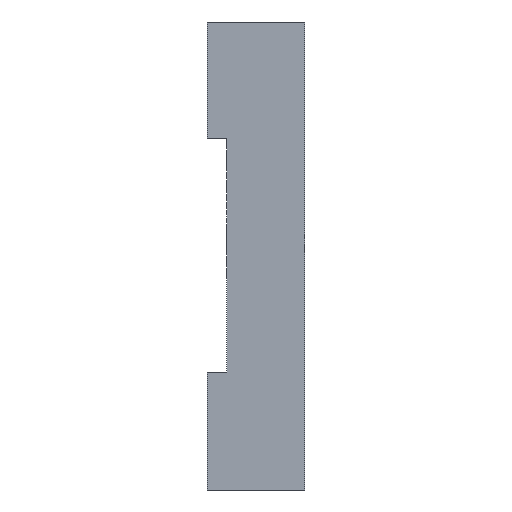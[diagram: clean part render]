
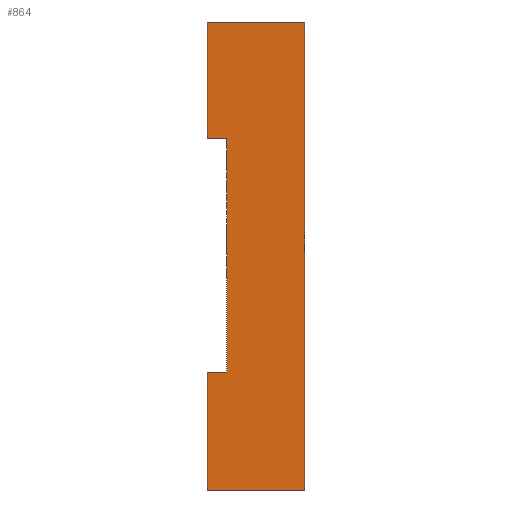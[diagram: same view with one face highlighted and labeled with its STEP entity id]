
A CAD part, left-side view. The second image highlights one B-rep face of the part: STEP entity #864.
In plain terms, the highlighted planar face has unit normal (-1, 0, 0).
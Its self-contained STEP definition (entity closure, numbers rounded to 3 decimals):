
#82 = EDGE_CURVE ( 'NONE', #195, #2377, #1007, .T. ) ;
#123 = VERTEX_POINT ( 'NONE', #1828 ) ;
#124 = VERTEX_POINT ( 'NONE', #1829 ) ;
#125 = VERTEX_POINT ( 'NONE', #1830 ) ;
#134 = VERTEX_POINT ( 'NONE', #1839 ) ;
#136 = VERTEX_POINT ( 'NONE', #1841 ) ;
#138 = VERTEX_POINT ( 'NONE', #1843 ) ;
#195 = VERTEX_POINT ( 'NONE', #1900 ) ;
#385 = ORIENTED_EDGE ( 'NONE', *, *, #1990, .F. ) ;
#473 = AXIS2_PLACEMENT_3D ( 'NONE', #1648, #1657, #1658 ) ;
#622 = CARTESIAN_POINT ( 'NONE',  ( -36., 0., -24. ) ) ;
#626 = DIRECTION ( 'NONE',  ( 0., 0., 1. ) ) ;
#641 = CARTESIAN_POINT ( 'NONE',  ( -36., 8., 24. ) ) ;
#642 = DIRECTION ( 'NONE',  ( 0., -1., 0. ) ) ;
#649 = CARTESIAN_POINT ( 'NONE',  ( -36., 10., 24. ) ) ;
#650 = DIRECTION ( 'NONE',  ( 0., 0., 1. ) ) ;
#651 = CARTESIAN_POINT ( 'NONE',  ( -36., 10., 12. ) ) ;
#652 = DIRECTION ( 'NONE',  ( 0., -1., 0. ) ) ;
#653 = CARTESIAN_POINT ( 'NONE',  ( -36., 10., -12. ) ) ;
#654 = DIRECTION ( 'NONE',  ( 0., -1., 0. ) ) ;
#655 = CARTESIAN_POINT ( 'NONE',  ( -36., 10., -24. ) ) ;
#656 = DIRECTION ( 'NONE',  ( 0., 0., 1. ) ) ;
#657 = CARTESIAN_POINT ( 'NONE',  ( -36., 8., -24. ) ) ;
#658 = DIRECTION ( 'NONE',  ( 0., -1., 0. ) ) ;
#864 = ADVANCED_FACE ( 'NONE', ( #1170 ), #1655, .F. ) ;
#924 = EDGE_LOOP ( 'NONE', ( #2298, #2087, #385, #2091, #2293, #2290, #2344, #2135 ) ) ;
#1007 = LINE ( 'NONE', #1765, #1010 ) ;
#1010 = VECTOR ( 'NONE', #1750, 1000. ) ;
#1170 = FACE_OUTER_BOUND ( 'NONE', #924, .T. ) ;
#1250 = LINE ( 'NONE', #622, #1266 ) ;
#1266 = VECTOR ( 'NONE', #626, 1000. ) ;
#1277 = LINE ( 'NONE', #641, #1279 ) ;
#1278 = LINE ( 'NONE', #649, #1281 ) ;
#1279 = VECTOR ( 'NONE', #642, 1000. ) ;
#1280 = LINE ( 'NONE', #651, #1283 ) ;
#1281 = VECTOR ( 'NONE', #650, 1000. ) ;
#1282 = LINE ( 'NONE', #653, #1285 ) ;
#1283 = VECTOR ( 'NONE', #652, 1000. ) ;
#1284 = LINE ( 'NONE', #655, #1287 ) ;
#1285 = VECTOR ( 'NONE', #654, 1000. ) ;
#1286 = LINE ( 'NONE', #657, #1289 ) ;
#1287 = VECTOR ( 'NONE', #656, 1000. ) ;
#1289 = VECTOR ( 'NONE', #658, 1000. ) ;
#1648 = CARTESIAN_POINT ( 'NONE',  ( -36., 8., -24. ) ) ;
#1655 = PLANE ( 'NONE',  #473 ) ;
#1657 = DIRECTION ( 'NONE',  ( 1., 0., 0. ) ) ;
#1658 = DIRECTION ( 'NONE',  ( 0., 0., -1. ) ) ;
#1750 = DIRECTION ( 'NONE',  ( 0., 0., 1. ) ) ;
#1765 = CARTESIAN_POINT ( 'NONE',  ( -36., 8., -24. ) ) ;
#1828 = CARTESIAN_POINT ( 'NONE',  ( -36., 10., 24. ) ) ;
#1829 = CARTESIAN_POINT ( 'NONE',  ( -36., 0., 24. ) ) ;
#1830 = CARTESIAN_POINT ( 'NONE',  ( -36., 0., -24. ) ) ;
#1839 = CARTESIAN_POINT ( 'NONE',  ( -36., 10., -12. ) ) ;
#1841 = CARTESIAN_POINT ( 'NONE',  ( -36., 10., 12. ) ) ;
#1843 = CARTESIAN_POINT ( 'NONE',  ( -36., 10., -24. ) ) ;
#1900 = CARTESIAN_POINT ( 'NONE',  ( -36., 8., -12. ) ) ;
#1980 = EDGE_CURVE ( 'NONE', #125, #124, #1250, .T. ) ;
#1989 = EDGE_CURVE ( 'NONE', #123, #124, #1277, .T. ) ;
#1990 = EDGE_CURVE ( 'NONE', #136, #123, #1278, .T. ) ;
#1991 = EDGE_CURVE ( 'NONE', #136, #2377, #1280, .T. ) ;
#1992 = EDGE_CURVE ( 'NONE', #134, #195, #1282, .T. ) ;
#1993 = EDGE_CURVE ( 'NONE', #138, #134, #1284, .T. ) ;
#1994 = EDGE_CURVE ( 'NONE', #138, #125, #1286, .T. ) ;
#2087 = ORIENTED_EDGE ( 'NONE', *, *, #1989, .F. ) ;
#2091 = ORIENTED_EDGE ( 'NONE', *, *, #1991, .T. ) ;
#2135 = ORIENTED_EDGE ( 'NONE', *, *, #1994, .T. ) ;
#2290 = ORIENTED_EDGE ( 'NONE', *, *, #1992, .F. ) ;
#2293 = ORIENTED_EDGE ( 'NONE', *, *, #82, .F. ) ;
#2298 = ORIENTED_EDGE ( 'NONE', *, *, #1980, .T. ) ;
#2344 = ORIENTED_EDGE ( 'NONE', *, *, #1993, .F. ) ;
#2377 = VERTEX_POINT ( 'NONE', #2483 ) ;
#2483 = CARTESIAN_POINT ( 'NONE',  ( -36., 8., 12. ) ) ;
